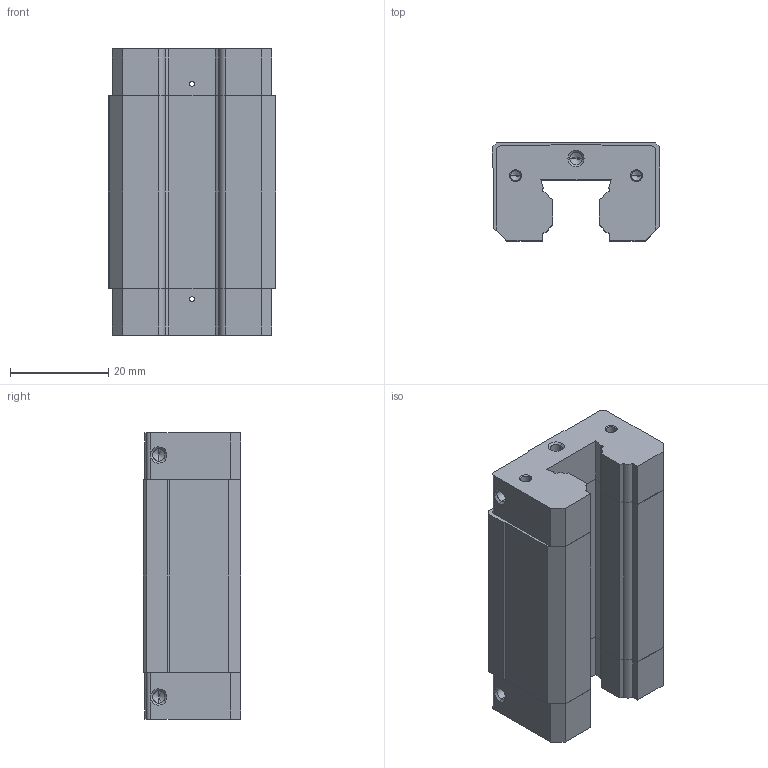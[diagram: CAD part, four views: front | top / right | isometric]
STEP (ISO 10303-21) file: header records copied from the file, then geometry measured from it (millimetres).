
FILE_DESCRIPTION (( 'STEP AP214' ), '1' );
FILE_NAME ('RUSIZE_1230111912409.step', '2006-12-30T16:19:14', ( 'SysAdmin' ), ( 'SolidWorks' ), 'SwSTEP 2.0', 'SolidWorks 2007', '' );
FILE_SCHEMA (( 'AUTOMOTIVE_DESIGN' ));
Length unit declared in the file: millimetre
Products named in the file (1): RUSIZE_1230111912409
Bounding box: 34 x 19.9 x 58.2 mm (x, y, z)
Volume: 29138.9 mm3; surface area: 11421.5 mm2
Topology: 3 solids, 3 shells, 202 faces, 530 edges, 318 vertices
Faces by surface type: plane 86, cone 60, cylinder 52, bspline 4
Entity records: 8061 total; most frequent: CARTESIAN_POINT 1087, DIRECTION 1024, ORIENTED_EDGE 1004, EDGE_CURVE 502, LINE 346, VECTOR 346, AXIS2_PLACEMENT_3D 339, VERTEX_POINT 318
